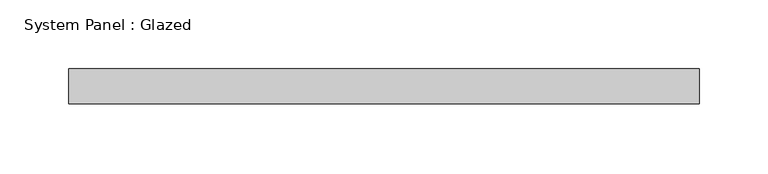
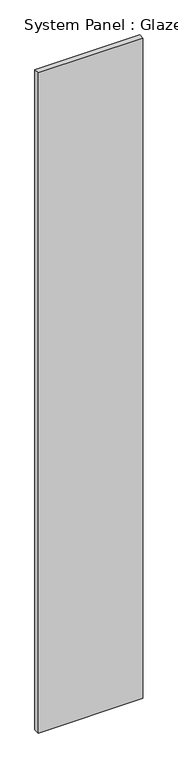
"""IFC4 building model written with IfcOpenShell, lengths in millimetres: plate geometry, System Panel : Glazed."""

from ifc_helpers import new_model, si_unit, origin, origin_with_axes, place, context, project, spatial, polyline, outline, extrude, source, transform, mapped, element, save


def system_panel_glazed_dbbce7d1(model_context):
    return source(origin(), model_context, "Body", "SweptSolid", [
        extrude(outline(polyline([(228.6, -44.45), (-228.6, -44.45), (-228.6, -19.05), (228.6, -19.05), (228.6, -44.45)])), origin_with_axes(), (0.0, 0.0, 1.0), 3048.0),
    ])


if __name__ == "__main__":
    model = new_model("IFC4")
    model_context = context("Model", 3, world=origin())
    ifc_project = project(units=[si_unit("LENGTHUNIT", "METRE", prefix="MILLI")], contexts=[model_context])
    site = spatial("IfcSite", under=ifc_project)
    building = spatial("IfcBuilding", under=site)
    placement = place(None, origin())
    system_panel_glazed_shape = system_panel_glazed_dbbce7d1(model_context)
    element("IfcPlate", 1, ObjectType="System Panel : Glazed", at=placement, inside=building, context=model_context, shape_type="MappedRepresentation", body=[
        mapped(system_panel_glazed_shape, transform((0.0, 0.0, 0.0), x_axis=(1.0, 0.0, 0.0), y_axis=(0.0, 1.0, 0.0), z_axis=(0.0, 0.0, 1.0))),
    ])
    save(model, "model.ifc")
